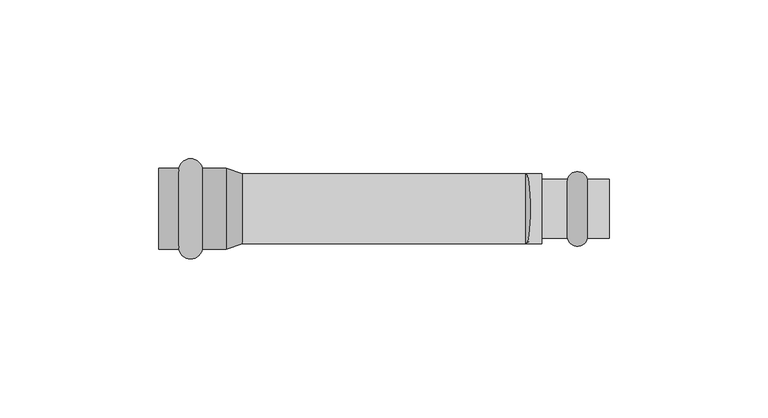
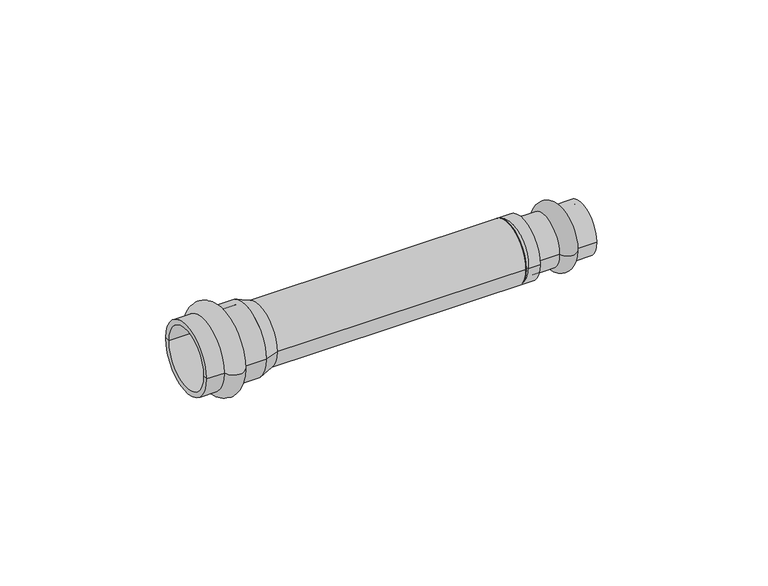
"""IFC4 building model written with IfcOpenShell, lengths in millimetres: pipe fitting geometry, VALTEC_VTi.903.I_Соединитель прямой нержавеющая сталь : VTi.903.I."""

from ifc_helpers import new_model, si_unit, point, frame, origin, origin_2d, place, context, project, spatial, polyline, circle_curve, ellipse_curve, trimmed, segment, composite_curve, outline, extrude, source, transform, mapped, element, save
from ifc_brep_helpers import plane_surface, cylinder_surface, revolved_surface, advanced_brep


def pipe_fitting_c257fe3b(model_context):
    return source(origin(), model_context, "Body", "SolidModel", [
        advanced_brep(
        [(135.1122777, 9.25, 0.0), (135.1122777, -9.25, 0.0), (128.7877223, -9.25, 0.0), (128.7877223, 9.25, 0.0), (142.0, 9.25, 0.0), (142.0, -9.25, 0.0), (142.0, 7.5, 0.0), (142.0, -7.5, 0.0), (120.7, 7.5, 0.0), (120.7, -7.5, 0.0), (120.7, 9.25, 0.0), (120.7, -9.25, 0.0)],
        [
            (0, 1, circle_curve(frame((135.1122777, 0.0, 0.0), z_axis=(-1.0, 0.0, 0.0), x_axis=(0.0, -1.0, 0.0)), 9.25)),
            (1, 2, circle_curve(frame((131.95, -8.5, 0.0), z_axis=(0.0, 0.0, -1.0), x_axis=(-1.0, 0.0, 0.0)), 3.25)),
            (2, 3, circle_curve(frame((128.7877223, 0.0, 0.0), z_axis=(1.0, 0.0, 0.0), x_axis=(0.0, -1.0, 0.0)), 9.25)),
            (3, 0, circle_curve(frame((131.95, 8.5, 0.0), z_axis=(0.0, 0.0, -1.0), x_axis=(-1.0, 0.0, 0.0)), 3.25)),
            (1, 0, circle_curve(frame((135.1122777, 0.0, 0.0), z_axis=(-1.0, 0.0, 0.0), x_axis=(0.0, -1.0, 0.0)), 9.25)),
            (3, 2, circle_curve(frame((128.7877223, 0.0, 0.0), z_axis=(1.0, 0.0, 0.0), x_axis=(0.0, -1.0, 0.0)), 9.25)),
            (4, 5, circle_curve(frame((142.0, 0.0, 0.0), z_axis=(-1.0, 0.0, 0.0), x_axis=(0.0, -1.0, 0.0)), 9.25)),
            (5, 1),
            (0, 4),
            (5, 4, circle_curve(frame((142.0, 0.0, 0.0), z_axis=(-1.0, 0.0, 0.0), x_axis=(0.0, -1.0, 0.0)), 9.25)),
            (6, 7, circle_curve(frame((142.0, 0.0, 0.0), z_axis=(-1.0, 0.0, 0.0), x_axis=(0.0, -1.0, 0.0)), 7.5)),
            (7, 5),
            (4, 6),
            (7, 6, circle_curve(frame((142.0, 0.0, 0.0), z_axis=(-1.0, 0.0, 0.0), x_axis=(0.0, -1.0, 0.0)), 7.5)),
            (8, 9, circle_curve(frame((120.7, 0.0, 0.0), z_axis=(-1.0, 0.0, 0.0), x_axis=(0.0, -1.0, 0.0)), 7.5)),
            (9, 7),
            (6, 8),
            (9, 8, circle_curve(frame((120.7, 0.0, 0.0), z_axis=(-1.0, 0.0, 0.0), x_axis=(0.0, -1.0, 0.0)), 7.5)),
            (10, 11, circle_curve(frame((120.7, 0.0, 0.0), z_axis=(-1.0, 0.0, 0.0), x_axis=(0.0, -1.0, 0.0)), 9.25)),
            (11, 9),
            (8, 10),
            (11, 10, circle_curve(frame((120.7, 0.0, 0.0), z_axis=(-1.0, 0.0, 0.0), x_axis=(0.0, -1.0, 0.0)), 9.25)),
            (2, 11),
            (10, 3),
        ],
        [
            revolved_surface(trimmed(ellipse_curve(frame((131.95, -8.5, 0.0), z_axis=(0.0, 0.0, 1.0), x_axis=(-1.0, 0.0, 0.0)), 3.25, 3.25), [point((128.7877223, -9.25, 0.0))], [point((135.1122777, -9.25, 0.0))], True, "CARTESIAN"), (145.5364426, 0.0, 0.0), (1.0, 0.0, 0.0)),
            cylinder_surface(frame((145.5364426, 0.0, 0.0), z_axis=(1.0, 0.0, 0.0), x_axis=(0.0, -1.0, 0.0)), 9.25),
            plane_surface(frame((142.0, 0.0, 0.0), z_axis=(1.0, 0.0, 0.0), x_axis=(0.0, -1.0, 0.0))),
            revolved_surface(polyline([(142.0, -7.5, 0.0), (120.7, -7.5, 0.0)]), (145.5364426, 0.0, 0.0), (1.0, 0.0, 0.0)),
            plane_surface(frame((120.7, 0.0, 0.0), z_axis=(-1.0, 0.0, 0.0), x_axis=(0.0, -1.0, 0.0))),
        ],
        [
            (0, [[1, 2, 3, 4]]),
            (0, [[5, -4, 6, -2]]),
            (1, [[7, 8, -1, 9]]),
            (1, [[10, -9, -5, -8]]),
            (2, [[11, 12, -7, 13]]),
            (2, [[14, -13, -10, -12]]),
            (3, [[15, 16, -11, 17]]),
            (3, [[18, -17, -14, -16]]),
            (4, [[19, 20, -15, 21]]),
            (4, [[22, -21, -18, -20]]),
            (1, [[-3, 23, -19, 24]]),
            (1, [[-6, -24, -22, -23]]),
        ],
    ),
        advanced_brep(
        [(6.3757654, -12.8, 0.0), (6.3757654, 12.8, 0.0), (13.7242346, 12.8, 0.0), (13.7242346, -12.8, 0.0), (0.0, -12.8, 0.0), (0.0, 12.8, 0.0), (0.0, -11.0, 0.0), (0.0, 11.0, 0.0), (21.3, -11.0, 0.0), (21.3, 11.0, 0.0), (21.3, -12.8, 0.0), (21.3, 12.8, 0.0)],
        [
            (0, 1, circle_curve(frame((6.3757654, 0.0, 0.0), z_axis=(1.0, 0.0, 0.0), x_axis=(0.0, 1.0, 0.0)), 12.8)),
            (1, 2, circle_curve(frame((10.05, 12.05, 0.0), z_axis=(0.0, 0.0, -1.0), x_axis=(1.0, 0.0, 0.0)), 3.75)),
            (2, 3, circle_curve(frame((13.7242346, 0.0, 0.0), z_axis=(-1.0, 0.0, 0.0), x_axis=(0.0, 1.0, 0.0)), 12.8)),
            (3, 0, circle_curve(frame((10.05, -12.05, 0.0), z_axis=(0.0, 0.0, -1.0), x_axis=(1.0, 0.0, 0.0)), 3.75)),
            (1, 0, circle_curve(frame((6.3757654, 0.0, 0.0), z_axis=(1.0, 0.0, 0.0), x_axis=(0.0, 1.0, 0.0)), 12.8)),
            (3, 2, circle_curve(frame((13.7242346, 0.0, 0.0), z_axis=(-1.0, 0.0, 0.0), x_axis=(0.0, 1.0, 0.0)), 12.8)),
            (4, 5, circle_curve(frame((0.0, 0.0, 0.0), z_axis=(1.0, 0.0, 0.0), x_axis=(0.0, 1.0, 0.0)), 12.8)),
            (5, 1),
            (0, 4),
            (5, 4, circle_curve(frame((0.0, 0.0, 0.0), z_axis=(1.0, 0.0, 0.0), x_axis=(0.0, 1.0, 0.0)), 12.8)),
            (6, 7, circle_curve(frame((0.0, 0.0, 0.0), z_axis=(1.0, 0.0, 0.0), x_axis=(0.0, 1.0, 0.0)), 11.0)),
            (7, 5),
            (4, 6),
            (7, 6, circle_curve(frame((0.0, 0.0, 0.0), z_axis=(1.0, 0.0, 0.0), x_axis=(0.0, 1.0, 0.0)), 11.0)),
            (8, 9, circle_curve(frame((21.3, 0.0, 0.0), z_axis=(1.0, 0.0, 0.0), x_axis=(0.0, 1.0, 0.0)), 11.0)),
            (9, 7),
            (6, 8),
            (9, 8, circle_curve(frame((21.3, 0.0, 0.0), z_axis=(1.0, 0.0, 0.0), x_axis=(0.0, 1.0, 0.0)), 11.0)),
            (10, 11, circle_curve(frame((21.3, 0.0, 0.0), z_axis=(1.0, 0.0, 0.0), x_axis=(0.0, 1.0, 0.0)), 12.8)),
            (11, 9),
            (8, 10),
            (11, 10, circle_curve(frame((21.3, 0.0, 0.0), z_axis=(1.0, 0.0, 0.0), x_axis=(0.0, 1.0, 0.0)), 12.8)),
            (2, 11),
            (10, 3),
        ],
        [
            revolved_surface(trimmed(ellipse_curve(frame((10.05, 12.05, 0.0), z_axis=(0.0, 0.0, 1.0), x_axis=(1.0, 0.0, 0.0)), 3.75, 3.75), [point((13.7242346, 12.8, 0.0))], [point((6.3757654, 12.8, 0.0))], True, "CARTESIAN"), (-3.5364426, 0.0, 0.0), (-1.0, 0.0, 0.0)),
            cylinder_surface(frame((-3.5364426, 0.0, 0.0), z_axis=(-1.0, 0.0, 0.0), x_axis=(0.0, 1.0, 0.0)), 12.8),
            plane_surface(frame((0.0, 0.0, 0.0), z_axis=(-1.0, 0.0, 0.0), x_axis=(0.0, 1.0, 0.0))),
            revolved_surface(polyline([(0.0, 11.0, 0.0), (21.3, 11.0, 0.0)]), (-3.5364426, 0.0, 0.0), (-1.0, 0.0, 0.0)),
            plane_surface(frame((21.3, 0.0, 0.0), z_axis=(1.0, 0.0, 0.0), x_axis=(0.0, 1.0, 0.0))),
        ],
        [
            (0, [[1, 2, 3, 4]]),
            (0, [[5, -4, 6, -2]]),
            (1, [[7, 8, -1, 9]]),
            (1, [[10, -9, -5, -8]]),
            (2, [[11, 12, -7, 13]]),
            (2, [[14, -13, -10, -12]]),
            (3, [[15, 16, -11, 17]]),
            (3, [[18, -17, -14, -16]]),
            (4, [[19, 20, -15, 21]]),
            (4, [[22, -21, -18, -20]]),
            (1, [[-3, 23, -19, 24]]),
            (1, [[-6, -24, -22, -23]]),
        ],
    ),
        advanced_brep(
        [(21.3, -12.8, 0.0), (21.3, 12.8, 0.0), (26.27, -11.0, 0.0), (26.27, 11.0, 0.0)],
        [
            (0, 1, circle_curve(frame((21.3, 0.0, 0.0), z_axis=(-1.0, 0.0, 0.0), x_axis=(0.0, -1.0, 0.0)), 12.8)),
            (1, 0, circle_curve(frame((21.3, 0.0, 0.0), z_axis=(-1.0, 0.0, 0.0), x_axis=(0.0, 1.0, 0.0)), 12.8)),
            (2, 3, circle_curve(frame((26.27, 0.0, 0.0), z_axis=(1.0, 0.0, 0.0), x_axis=(0.0, 1.0, 0.0)), 11.0)),
            (3, 2, circle_curve(frame((26.27, 0.0, 0.0), z_axis=(1.0, 0.0, 0.0), x_axis=(0.0, -1.0, 0.0)), 11.0)),
            (2, 0),
            (1, 3),
        ],
        [
            plane_surface(frame((21.3, 0.0, 0.0), z_axis=(-1.0, 0.0, 0.0), x_axis=(0.0, 0.0, 1.0))),
            plane_surface(frame((26.27, 0.0, 0.0), z_axis=(1.0, 0.0, 0.0), x_axis=(0.0, 0.0, 1.0))),
            revolved_surface(polyline([(26.27, -10.999999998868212, 0.0), (21.300000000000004, -12.8, 0.0)]), (56.6422222, 0.0, 0.0), (-1.0, 0.0, 0.0)),
            revolved_surface(polyline([(26.27, 10.999999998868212, 0.0), (21.300000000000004, 12.8, 0.0)]), (56.6422222, 0.0, 0.0), (-1.0, 0.0, 0.0)),
        ],
        [
            (0, [[1, 2]]),
            (1, [[3, 4]]),
            (2, [[-3, 5, -2, 6]]),
            (3, [[-4, -6, -1, -5]]),
        ],
    ),
        advanced_brep(
        [(120.7, -9.25, 0.0), (120.7, 9.25, 0.0), (115.73, -11.0, 0.0), (115.73, 11.0, 0.0)],
        [
            (0, 1, circle_curve(frame((120.7, 0.0, 0.0), z_axis=(1.0, 0.0, 0.0), x_axis=(0.0, -1.0, 0.0)), 9.25)),
            (1, 0, circle_curve(frame((120.7, 0.0, 0.0), z_axis=(1.0, 0.0, 0.0), x_axis=(0.0, 1.0, 0.0)), 9.25)),
            (2, 3, circle_curve(frame((115.73, 0.0, 0.0), z_axis=(-1.0, 0.0, 0.0), x_axis=(0.0, 1.0, 0.0)), 11.0)),
            (3, 2, circle_curve(frame((115.73, 0.0, 0.0), z_axis=(-1.0, 0.0, 0.0), x_axis=(0.0, -1.0, 0.0)), 11.0)),
            (3, 1),
            (0, 2),
        ],
        [
            plane_surface(frame((120.7, 0.0, 0.0), z_axis=(1.0, 0.0, 0.0), x_axis=(0.0, 0.0, -1.0))),
            plane_surface(frame((115.73, 0.0, 0.0), z_axis=(-1.0, 0.0, 0.0), x_axis=(0.0, 0.0, -1.0))),
            revolved_surface(polyline([(120.7, -9.25, 0.0), (115.73, -11.0, 0.0)]), (146.97, 0.0, 0.0), (-1.0, 0.0, 0.0)),
            revolved_surface(polyline([(120.7, 9.25, 0.0), (115.73, 11.0, 0.0)]), (146.97, 0.0, 0.0), (-1.0, 0.0, 0.0)),
        ],
        [
            (0, [[1, 2]]),
            (1, [[3, 4]]),
            (2, [[-4, 5, -1, 6]]),
            (3, [[-3, -6, -2, -5]]),
        ],
    ),
        extrude(outline(composite_curve([segment(trimmed(circle_curve(origin_2d(), 11.0), [point((-11.0, 0.0))], [point((11.0, 0.0))], False, "CARTESIAN"), True, "CONTINUOUS"), segment(trimmed(circle_curve(origin_2d(), 11.0), [point((11.0, 0.0))], [point((-11.0, 0.0))], False, "CARTESIAN"), True, "CONTINUOUS")], self_intersect=False)), frame((21.3, 0.0, 0.0), z_axis=(1.0, 0.0, 0.0), x_axis=(0.0, 1.0, 0.0)), (0.0, 0.0, 1.0), 99.4),
    ])


if __name__ == "__main__":
    model = new_model("IFC4")
    model_context = context("Model", 3, world=origin())
    ifc_project = project(units=[si_unit("LENGTHUNIT", "METRE", prefix="MILLI")], contexts=[model_context])
    site = spatial("IfcSite", under=ifc_project)
    building = spatial("IfcBuilding", under=site)
    placement = place(None, origin())
    pipe_fitting_shape = pipe_fitting_c257fe3b(model_context)
    element("IfcPipeFitting", 1, ObjectType="VALTEC_VTi.903.I_Соединитель прямой нержавеющая сталь : VTi.903.I", at=placement, inside=building, context=model_context, shape_type="MappedRepresentation", body=[
        mapped(pipe_fitting_shape, transform((0.0, 0.0, 0.0), x_axis=(1.0, 0.0, 0.0), y_axis=(0.0, 1.0, 0.0), z_axis=(0.0, 0.0, 1.0))),
    ])
    save(model, "model.ifc")
